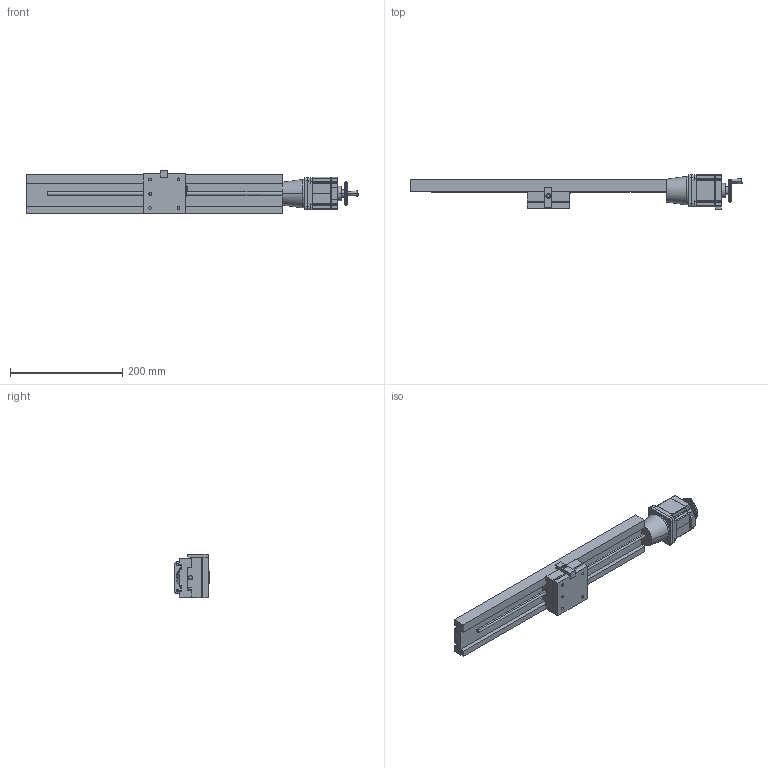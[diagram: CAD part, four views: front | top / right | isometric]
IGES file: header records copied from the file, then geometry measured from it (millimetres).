
Start section: Comment
Global section: file name: 6554-18-cnc.igs; native system:  By Spatial Corp.; preprocessor: XPlus PS/IGES 3.0; author: Author; organization: Title; date: 20180516.075559; units: inch
Bounding box: 592.14 x 62.31 x 77.48 mm (x, y, z)
Surface area: 212778.5 mm2 (no closed solid volume)
Topology: 0 solids, 0 shells, 856 faces, 4678 edges, 4678 vertices
Faces by surface type: extrusion 537, revolution 319
